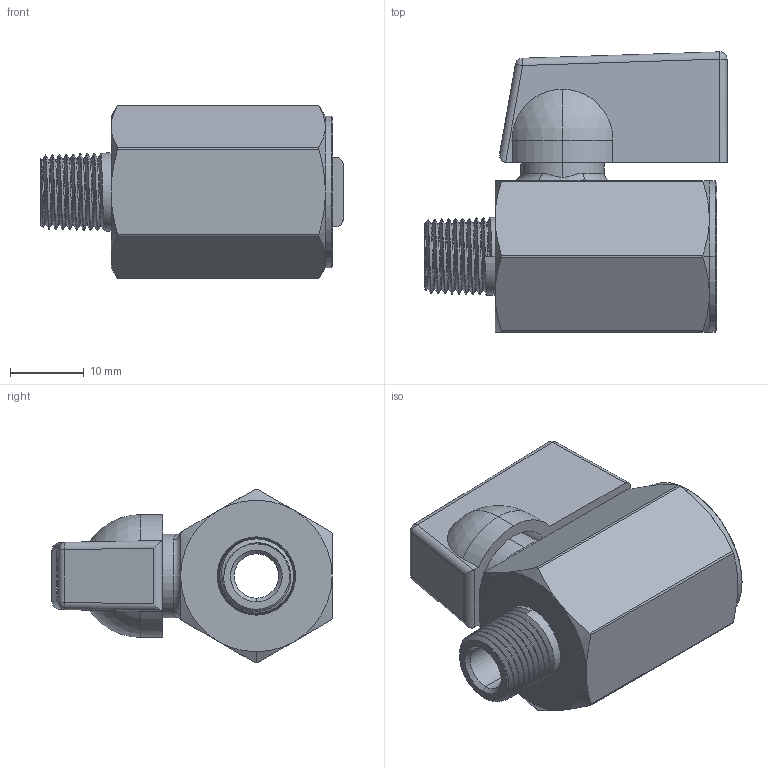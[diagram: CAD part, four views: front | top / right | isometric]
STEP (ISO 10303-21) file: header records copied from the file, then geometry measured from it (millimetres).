
FILE_DESCRIPTION (( 'STEP AP214' ), '1' );
FILE_NAME ('100-440.STEP', '2025-11-06T16:38:07', ( '' ), ( '' ), 'SwSTEP 2.0', 'SolidWorks 2025', '' );
FILE_SCHEMA (( 'AUTOMOTIVE_DESIGN' ));
Length unit declared in the file: inch
Products named in the file (10): 1051___4.STEP; 1051.STEP; 14___8.STEP; _____10.STEP; 1051__-0_1.STEP; 12_______8.STEP; 1051_____10.STEP; O-ring_10.STEP; 100-440; 31_______10.STEP
Assembly tree (11 placements, depth 3):
  100-440
    1051.STEP
      1051_____10.STEP
      12_______8.STEP  x2
      14___8.STEP
      31_______10.STEP
      O-ring_10.STEP  x2
      _____10.STEP
      1051___4.STEP
      1051__-0_1.STEP
Bounding box: 40.9 x 37.92 x 23.5 mm (x, y, z)
Volume: 12510.6 mm3; surface area: 12587 mm2
Topology: 10 solids, 10 shells, 387 faces, 968 edges, 611 vertices
Faces by surface type: cylinder 133, plane 91, cone 85, bspline 34, torus 24, sphere 20
Entity records: 33258 total; most frequent: CARTESIAN_POINT 24633, ORIENTED_EDGE 1848, DIRECTION 1650, EDGE_CURVE 924, AXIS2_PLACEMENT_3D 668, VERTEX_POINT 587, EDGE_LOOP 395, FACE_OUTER_BOUND 367
